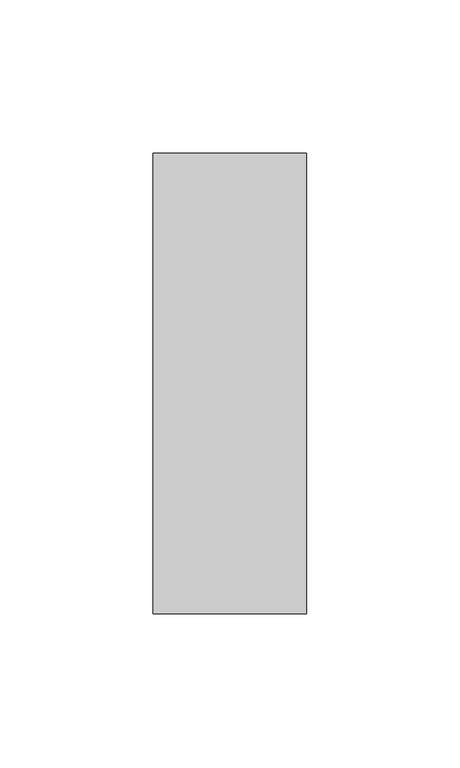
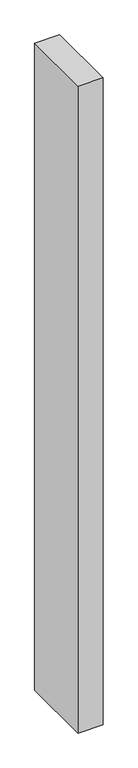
"""IFC4 building model written with IfcOpenShell, lengths in millimetres: member geometry, Прямоугольный импост : 50 x 150 мм."""

from ifc_helpers import new_model, si_unit, frame, origin, place, context, project, spatial, polyline, outline, extrude, source, transform, mapped, element, save


def member_871c710f(model_context):
    return source(origin(), model_context, "Body", "SweptSolid", [
        extrude(outline(polyline([(25.0, 75.0), (25.0, -75.0), (-25.0, -75.0), (-25.0, 75.0), (25.0, 75.0)])), frame((0.0, 0.0, -1367.8857992), z_axis=(0.0, 0.0, 1.0), x_axis=(1.0, 0.0, 0.0)), (0.0, 0.0, 1.0), 1367.8857992),
    ])


if __name__ == "__main__":
    model = new_model("IFC4")
    model_context = context("Model", 3, world=origin())
    ifc_project = project(units=[si_unit("LENGTHUNIT", "METRE", prefix="MILLI")], contexts=[model_context])
    site = spatial("IfcSite", under=ifc_project)
    building = spatial("IfcBuilding", under=site)
    placement = place(None, origin())
    member_shape = member_871c710f(model_context)
    element("IfcMember", 1, ObjectType="Прямоугольный импост : 50 x 150 мм", at=placement, inside=building, context=model_context, shape_type="MappedRepresentation", body=[
        mapped(member_shape, transform((0.0, 0.0, 0.0), x_axis=(1.0, 0.0, 0.0), y_axis=(0.0, 1.0, 0.0), z_axis=(0.0, 0.0, 1.0))),
    ])
    save(model, "model.ifc")
